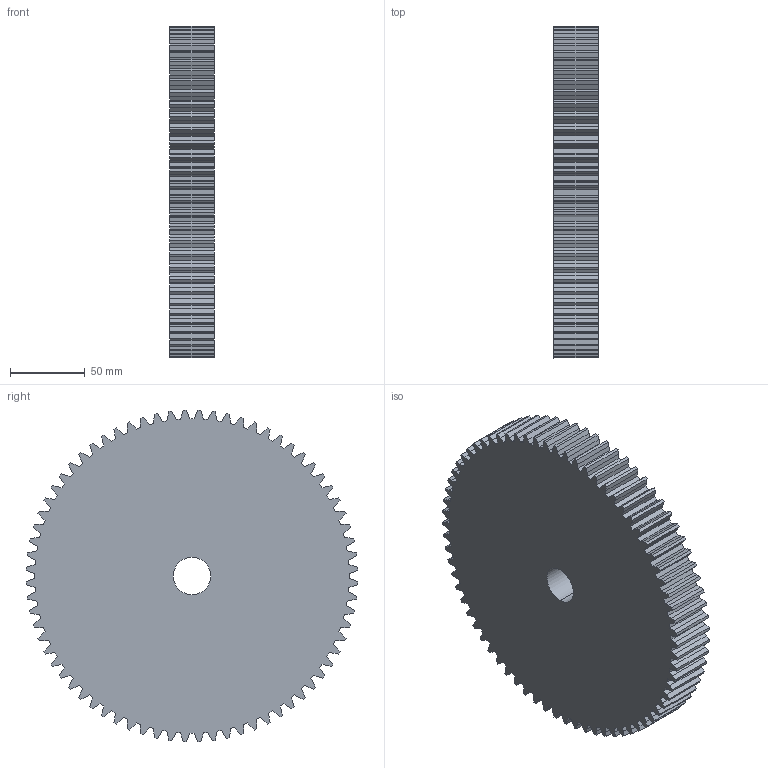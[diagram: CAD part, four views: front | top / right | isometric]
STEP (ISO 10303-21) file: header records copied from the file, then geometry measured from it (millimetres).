
FILE_DESCRIPTION (( 'STEP AP203' ), '1' );
FILE_NAME ('CM 30072.STEP', '2013-09-23T09:56:38', ( '' ), ( '' ), 'SwSTEP 2.0', 'SolidWorks 2010', '' );
FILE_SCHEMA (( 'CONFIG_CONTROL_DESIGN' ));
Length unit declared in the file: millimetre
Products named in the file (1): CM 30072
Bounding box: 30 x 221.87 x 221.87 mm (x, y, z)
Volume: 1077842.4 mm3; surface area: 112696.4 mm2
Topology: 1 solids, 1 shells, 436 faces, 1302 edges, 868 vertices
Faces by surface type: plane 290, cylinder 146
Entity records: 15279 total; most frequent: CARTESIAN_POINT 5091, ORIENTED_EDGE 2604, DIRECTION 1372, EDGE_CURVE 1302, VERTEX_POINT 868, B_SPLINE_CURVE_WITH_KNOTS 828, AXIS2_PLACEMENT_3D 461, LINE 450
